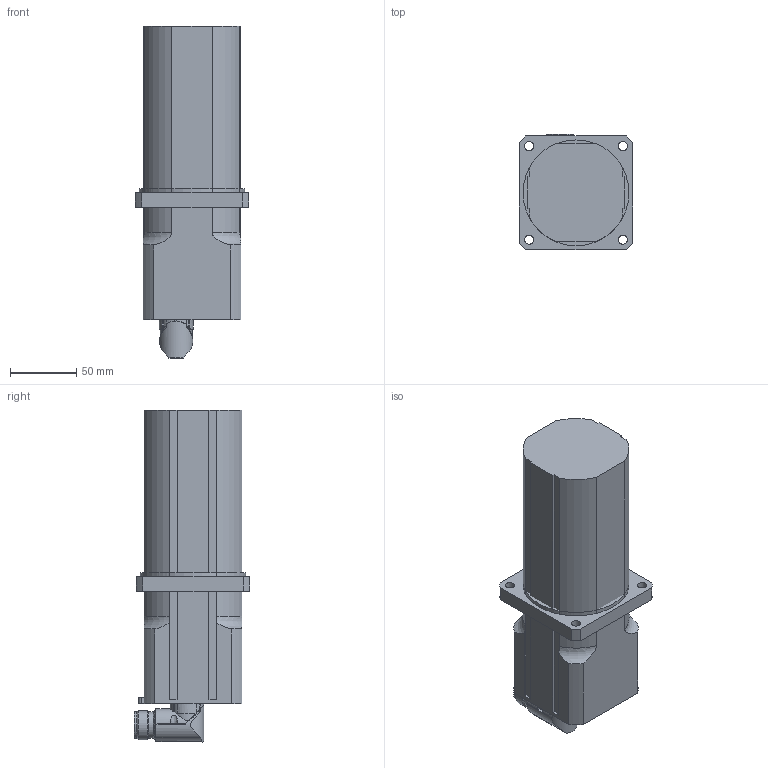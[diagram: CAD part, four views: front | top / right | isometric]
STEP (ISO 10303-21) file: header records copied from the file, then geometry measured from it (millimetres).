
FILE_DESCRIPTION(/* description */ ('Alibre Inc.'),/* implementation_level */ '2;1');
FILE_NAME(/* name */ 'export0',/* time_stamp */ '2011-03-24T12:32:08+01:00',/* author */ (''),/* organization */ (''),/* preprocessor_version */ 'ST-DEVELOPER v12',/* originating_system */ 'Alibre',/* authorisation */ '');
FILE_SCHEMA (('ALIBRE_SCHEMA','CONFIG_CONTROL_DESIGN'));
Length unit declared in the file: millimetre
Products named in the file (5): ID_1
Bounding box: 86 x 87.51 x 251 mm (x, y, z)
Volume: 1199383.2 mm3; surface area: 100500.2 mm2
Topology: 4 solids, 4 shells, 147 faces, 386 edges, 256 vertices
Faces by surface type: cylinder 62, plane 57, bspline 20, cone 4, torus 4
Full cylindrical faces by diameter (mm): 2.7 x4, 14 x1, 20 x3, 22 x2, 62 x1, 80 x1
Entity records: 15458 total; most frequent: CARTESIAN_POINT 4435, DIRECTION 1644, ORIENTED_EDGE 1636, EDGE_CURVE 818, AXIS2_PLACEMENT_3D 630, VERTEX_POINT 580, VECTOR 502, LINE 468
